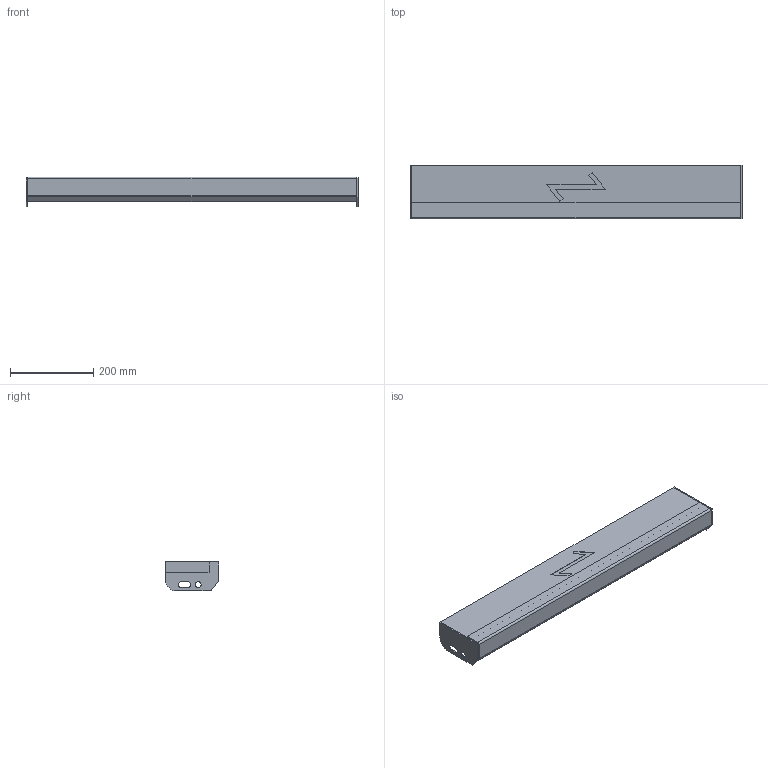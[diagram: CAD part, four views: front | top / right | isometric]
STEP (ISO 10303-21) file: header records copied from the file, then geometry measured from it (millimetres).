
FILE_DESCRIPTION (( 'STEP AP203' ), '1' );
FILE_NAME ('StegTH6-S-nya_steget-800x130.STEP', '2020-03-04T07:42:36', ( '' ), ( '' ), 'SwSTEP 2.0', 'SolidWorks 2019', '' );
FILE_SCHEMA (( 'CONFIG_CONTROL_DESIGN' ));
Length unit declared in the file: millimetre
Products named in the file (5): SW0000038733; StegTH6-S-nya_steget-800x130; SW0000038694; SW0000039244; SW0000039476
Assembly tree (5 placements, depth 3):
  StegTH6-S-nya_steget-800x130
    SW0000039476
      SW0000038733
      SW0000039244
      SW0000038694  x2
Bounding box: 800 x 130 x 72 mm (x, y, z)
Volume: 2306582 mm3; surface area: 408426.4 mm2
Topology: 4 solids, 4 shells, 67 faces, 158 edges, 100 vertices
Faces by surface type: plane 51, cylinder 16
Entity records: 2002 total; most frequent: DIRECTION 261, CARTESIAN_POINT 254, ORIENTED_EDGE 238, EDGE_CURVE 119, LINE 99, VECTOR 99, AXIS2_PLACEMENT_3D 81, VERTEX_POINT 74
